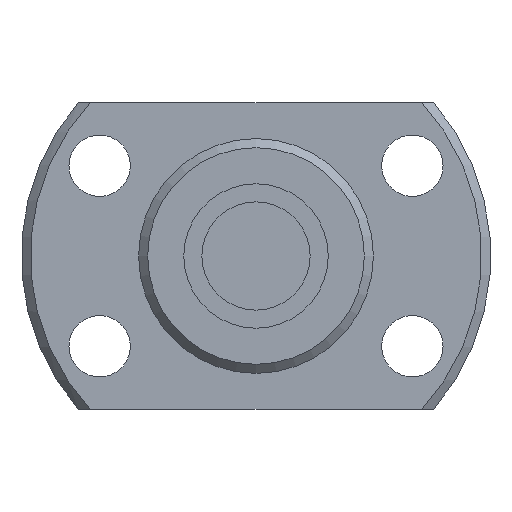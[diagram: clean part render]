
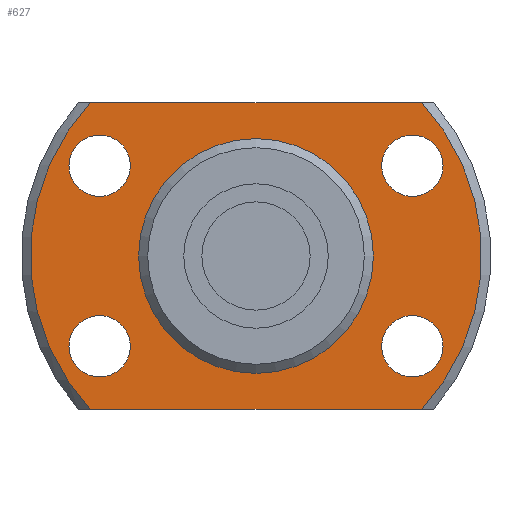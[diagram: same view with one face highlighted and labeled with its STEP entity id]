
A CAD part, left-side view. The second image highlights one B-rep face of the part: STEP entity #627.
In plain terms, the highlighted planar face has unit normal (-1, 0, 0) as drawn and (1, 0, 0) by its records, which use the part's own axes.
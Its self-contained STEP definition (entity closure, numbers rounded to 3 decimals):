
#77=LINE('',#1111,#95);
#78=LINE('',#1113,#96);
#95=VECTOR('',#920,1000.);
#96=VECTOR('',#921,1000.);
#196=ORIENTED_EDGE('',*,*,#298,.T.);
#197=ORIENTED_EDGE('',*,*,#276,.T.);
#198=ORIENTED_EDGE('',*,*,#299,.T.);
#199=ORIENTED_EDGE('',*,*,#300,.T.);
#200=ORIENTED_EDGE('',*,*,#301,.F.);
#201=ORIENTED_EDGE('',*,*,#302,.F.);
#202=ORIENTED_EDGE('',*,*,#303,.F.);
#203=ORIENTED_EDGE('',*,*,#304,.F.);
#204=ORIENTED_EDGE('',*,*,#297,.F.);
#276=EDGE_CURVE('',#339,#341,#392,.T.);
#297=EDGE_CURVE('',#360,#360,#407,.T.);
#298=EDGE_CURVE('',#361,#339,#77,.T.);
#299=EDGE_CURVE('',#341,#362,#78,.T.);
#300=EDGE_CURVE('',#362,#361,#408,.T.);
#301=EDGE_CURVE('',#363,#363,#409,.T.);
#302=EDGE_CURVE('',#364,#364,#410,.T.);
#303=EDGE_CURVE('',#365,#365,#411,.T.);
#304=EDGE_CURVE('',#366,#366,#412,.T.);
#339=VERTEX_POINT('',#1046);
#341=VERTEX_POINT('',#1053);
#360=VERTEX_POINT('',#1109);
#361=VERTEX_POINT('',#1112);
#362=VERTEX_POINT('',#1114);
#363=VERTEX_POINT('',#1117);
#364=VERTEX_POINT('',#1119);
#365=VERTEX_POINT('',#1121);
#366=VERTEX_POINT('',#1123);
#392=CIRCLE('',#712,12.5);
#407=CIRCLE('',#736,6.3);
#408=CIRCLE('',#738,12.5);
#409=CIRCLE('',#739,1.7);
#410=CIRCLE('',#740,1.7);
#411=CIRCLE('',#741,1.7);
#412=CIRCLE('',#742,1.7);
#475=EDGE_LOOP('',(#196,#197,#198,#199));
#476=EDGE_LOOP('',(#200));
#477=EDGE_LOOP('',(#201));
#478=EDGE_LOOP('',(#202));
#479=EDGE_LOOP('',(#203));
#480=EDGE_LOOP('',(#204));
#555=FACE_BOUND('',#475,.T.);
#556=FACE_BOUND('',#476,.T.);
#557=FACE_BOUND('',#477,.T.);
#558=FACE_BOUND('',#478,.T.);
#559=FACE_BOUND('',#479,.T.);
#560=FACE_BOUND('',#480,.T.);
#590=PLANE('',#737);
#627=ADVANCED_FACE('',(#555,#556,#557,#558,#559,#560),#590,.T.);
#712=AXIS2_PLACEMENT_3D('',#1054,#864,#865);
#736=AXIS2_PLACEMENT_3D('',#1108,#916,#917);
#737=AXIS2_PLACEMENT_3D('',#1110,#918,#919);
#738=AXIS2_PLACEMENT_3D('',#1115,#922,#923);
#739=AXIS2_PLACEMENT_3D('',#1116,#924,#925);
#740=AXIS2_PLACEMENT_3D('',#1118,#926,#927);
#741=AXIS2_PLACEMENT_3D('',#1120,#928,#929);
#742=AXIS2_PLACEMENT_3D('',#1122,#930,#931);
#864=DIRECTION('',(1.,0.,0.));
#865=DIRECTION('',(0.,0.,-1.));
#916=DIRECTION('',(1.,0.,0.));
#917=DIRECTION('',(0.,0.,-1.));
#918=DIRECTION('',(1.,0.,0.));
#919=DIRECTION('',(0.,0.,-1.));
#920=DIRECTION('',(0.,-1.,0.));
#921=DIRECTION('',(0.,1.,0.));
#922=DIRECTION('',(1.,0.,0.));
#923=DIRECTION('',(0.,0.,-1.));
#924=DIRECTION('',(1.,0.,0.));
#925=DIRECTION('',(0.,0.,-1.));
#926=DIRECTION('',(1.,0.,0.));
#927=DIRECTION('',(0.,0.,-1.));
#928=DIRECTION('',(1.,0.,0.));
#929=DIRECTION('',(0.,0.,-1.));
#930=DIRECTION('',(1.,0.,0.));
#931=DIRECTION('',(0.,0.,-1.));
#1046=CARTESIAN_POINT('',(4.,-9.165,8.5));
#1053=CARTESIAN_POINT('',(4.,-9.165,-8.5));
#1054=CARTESIAN_POINT('',(4.,0.,0.));
#1108=CARTESIAN_POINT('',(4.,0.,0.));
#1109=CARTESIAN_POINT('',(4.,0.,-6.3));
#1110=CARTESIAN_POINT('',(4.,6.3,0.));
#1111=CARTESIAN_POINT('',(4.,13.,8.5));
#1112=CARTESIAN_POINT('',(4.,9.165,8.5));
#1113=CARTESIAN_POINT('',(4.,-13.,-8.5));
#1114=CARTESIAN_POINT('',(4.,9.165,-8.5));
#1115=CARTESIAN_POINT('',(4.,0.,0.));
#1116=CARTESIAN_POINT('',(4.,8.66,5.));
#1117=CARTESIAN_POINT('',(4.,8.66,3.3));
#1118=CARTESIAN_POINT('',(4.,-8.66,5.));
#1119=CARTESIAN_POINT('',(4.,-8.66,3.3));
#1120=CARTESIAN_POINT('',(4.,-8.66,-5.));
#1121=CARTESIAN_POINT('',(4.,-8.66,-6.7));
#1122=CARTESIAN_POINT('',(4.,8.66,-5.));
#1123=CARTESIAN_POINT('',(4.,8.66,-6.7));
